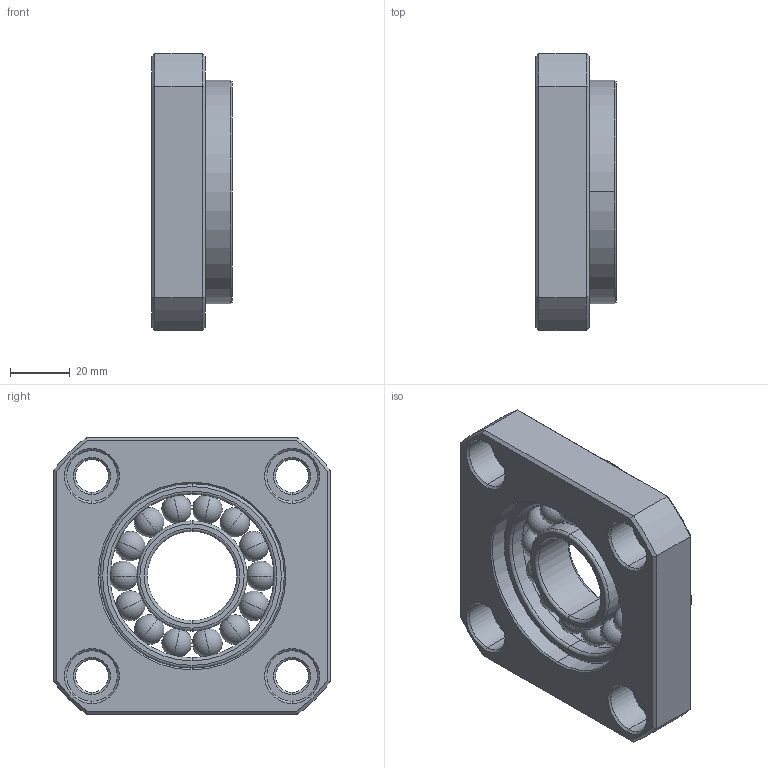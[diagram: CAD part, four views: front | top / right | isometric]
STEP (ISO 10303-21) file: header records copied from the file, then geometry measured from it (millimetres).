
FILE_DESCRIPTION (( 'STEP AP203' ), '1' );
FILE_NAME ('FF30²Õ¦X¥ó.STEP', '2017-12-27T08:48:57', ( '' ), ( '' ), 'SwSTEP 2.0', 'SolidWorks 2017', '' );
FILE_SCHEMA (( 'CONFIG_CONTROL_DESIGN' ));
Length unit declared in the file: millimetre
Products named in the file (1): FF30組合件
Bounding box: 27 x 93 x 93 mm (x, y, z)
Surface area: 38697.1 mm2 (no closed solid volume)
Topology: 0 solids, 17 shells, 145 faces, 348 edges, 214 vertices
Faces by surface type: cone 38, cylinder 34, sphere 28, plane 23, torus 22
Entity records: 3779 total; most frequent: DIRECTION 732, CARTESIAN_POINT 644, ORIENTED_EDGE 552, AXIS2_PLACEMENT_3D 324, EDGE_CURVE 278, CIRCLE 178, VERTEX_POINT 172, EDGE_LOOP 164
